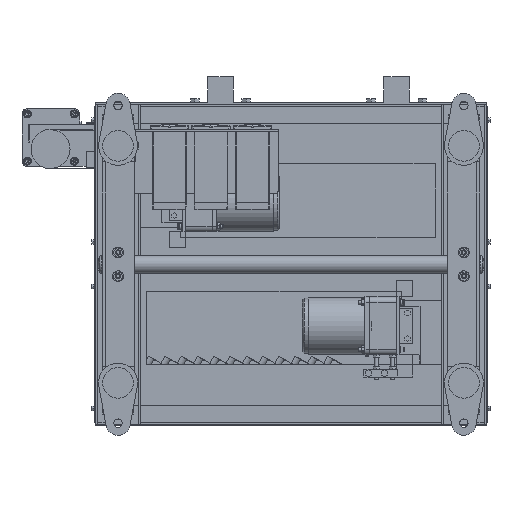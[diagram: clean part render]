
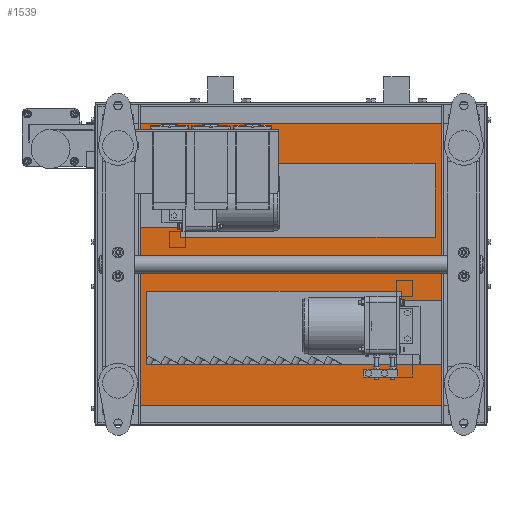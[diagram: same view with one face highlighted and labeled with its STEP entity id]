
A CAD part, front view. The second image highlights one B-rep face of the part: STEP entity #1539.
In plain terms, the highlighted planar face has unit normal (0, -1, 0).
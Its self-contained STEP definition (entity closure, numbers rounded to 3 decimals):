
#333 = DIRECTION ( 'NONE',  ( 0., 0., 1. ) ) ;
#409 = EDGE_CURVE ( 'NONE', #24663, #5506, #5719, .T. ) ;
#862 = VERTEX_POINT ( 'NONE', #15058 ) ;
#1539 = ADVANCED_FACE ( 'NONE', ( #55067, #7291, #58676 ), #43519, .F. ) ;
#1669 = VERTEX_POINT ( 'NONE', #30481 ) ;
#2827 = DIRECTION ( 'NONE',  ( 1., 0., 0. ) ) ;
#2902 = DIRECTION ( 'NONE',  ( 0., 0., -1. ) ) ;
#3727 = VECTOR ( 'NONE', #2827, 1000. ) ;
#5329 = EDGE_CURVE ( 'NONE', #18940, #28668, #26488, .T. ) ;
#5506 = VERTEX_POINT ( 'NONE', #54766 ) ;
#5719 = LINE ( 'NONE', #39929, #35700 ) ;
#6553 = ORIENTED_EDGE ( 'NONE', *, *, #5329, .T. ) ;
#6984 = ORIENTED_EDGE ( 'NONE', *, *, #39293, .T. ) ;
#7291 = FACE_BOUND ( 'NONE', #43479, .T. ) ;
#8555 = DIRECTION ( 'NONE',  ( 0., 0., 1. ) ) ;
#9012 = CARTESIAN_POINT ( 'NONE',  ( 80., -93., -42. ) ) ;
#9080 = DIRECTION ( 'NONE',  ( -1., 0., 0. ) ) ;
#9198 = VECTOR ( 'NONE', #55566, 1000. ) ;
#9714 = VECTOR ( 'NONE', #52799, 1000. ) ;
#10377 = VECTOR ( 'NONE', #2902, 1000. ) ;
#11450 = VECTOR ( 'NONE', #34855, 1000. ) ;
#11850 = CARTESIAN_POINT ( 'NONE',  ( 40., -93., 57. ) ) ;
#11932 = ORIENTED_EDGE ( 'NONE', *, *, #47320, .F. ) ;
#13016 = LINE ( 'NONE', #39189, #3727 ) ;
#13126 = LINE ( 'NONE', #28210, #15297 ) ;
#13700 = EDGE_CURVE ( 'NONE', #862, #35209, #33691, .T. ) ;
#13990 = VERTEX_POINT ( 'NONE', #9012 ) ;
#14235 = CARTESIAN_POINT ( 'NONE',  ( 3., -93., -500000. ) ) ;
#14282 = LINE ( 'NONE', #54000, #11450 ) ;
#14637 = DIRECTION ( 'NONE',  ( 0., 0., 1. ) ) ;
#15058 = CARTESIAN_POINT ( 'NONE',  ( 570., -93., -157. ) ) ;
#15215 = VERTEX_POINT ( 'NONE', #17288 ) ;
#15297 = VECTOR ( 'NONE', #14637, 1000. ) ;
#15873 = LINE ( 'NONE', #29947, #50864 ) ;
#15906 = VECTOR ( 'NONE', #51028, 1000. ) ;
#16310 = ORIENTED_EDGE ( 'NONE', *, *, #20231, .T. ) ;
#16482 = CARTESIAN_POINT ( 'NONE',  ( 610., -93., 247. ) ) ;
#17288 = CARTESIAN_POINT ( 'NONE',  ( 133., -93., 57. ) ) ;
#18940 = VERTEX_POINT ( 'NONE', #31477 ) ;
#19048 = CARTESIAN_POINT ( 'NONE',  ( 80., -93., -42. ) ) ;
#20019 = VECTOR ( 'NONE', #333, 1000. ) ;
#20108 = VECTOR ( 'NONE', #45536, 1000. ) ;
#20220 = CARTESIAN_POINT ( 'NONE',  ( 610., -93., -247. ) ) ;
#20231 = EDGE_CURVE ( 'NONE', #15215, #46732, #59012, .T. ) ;
#20701 = LINE ( 'NONE', #16482, #56348 ) ;
#20754 = CARTESIAN_POINT ( 'NONE',  ( 530., -93., 157. ) ) ;
#20955 = LINE ( 'NONE', #54201, #41658 ) ;
#21375 = LINE ( 'NONE', #51224, #9198 ) ;
#21735 = CARTESIAN_POINT ( 'NONE',  ( 80., -93., -157. ) ) ;
#22088 = DIRECTION ( 'NONE',  ( 0., 0., -1. ) ) ;
#23114 = EDGE_CURVE ( 'NONE', #38054, #24663, #27485, .T. ) ;
#24663 = VERTEX_POINT ( 'NONE', #57180 ) ;
#25302 = CARTESIAN_POINT ( 'NONE',  ( 530., -93., 42. ) ) ;
#25720 = LINE ( 'NONE', #14235, #20019 ) ;
#26488 = LINE ( 'NONE', #27104, #20108 ) ;
#26755 = EDGE_CURVE ( 'NONE', #1669, #28668, #20701, .T. ) ;
#27104 = CARTESIAN_POINT ( 'NONE',  ( 607., -93., -500000. ) ) ;
#27211 = VECTOR ( 'NONE', #9080, 1000. ) ;
#27485 = LINE ( 'NONE', #52432, #10377 ) ;
#27536 = ORIENTED_EDGE ( 'NONE', *, *, #409, .T. ) ;
#28210 = CARTESIAN_POINT ( 'NONE',  ( 133., -93., 57. ) ) ;
#28668 = VERTEX_POINT ( 'NONE', #57760 ) ;
#28786 = EDGE_LOOP ( 'NONE', ( #33410, #27536, #46592, #36191, #47080, #6984 ) ) ;
#28929 = LINE ( 'NONE', #20220, #58916 ) ;
#29724 = DIRECTION ( 'NONE',  ( -1., 0., 0. ) ) ;
#29740 = ORIENTED_EDGE ( 'NONE', *, *, #26755, .F. ) ;
#29947 = CARTESIAN_POINT ( 'NONE',  ( 40., -93., 157. ) ) ;
#30481 = CARTESIAN_POINT ( 'NONE',  ( 3., -93., 247. ) ) ;
#31477 = CARTESIAN_POINT ( 'NONE',  ( 607., -93., -247. ) ) ;
#31605 = AXIS2_PLACEMENT_3D ( 'NONE', #38940, #52111, #29724 ) ;
#32165 = ORIENTED_EDGE ( 'NONE', *, *, #38566, .T. ) ;
#32277 = LINE ( 'NONE', #19048, #15906 ) ;
#32431 = VERTEX_POINT ( 'NONE', #34516 ) ;
#32484 = EDGE_CURVE ( 'NONE', #46732, #34761, #15873, .T. ) ;
#32703 = CARTESIAN_POINT ( 'NONE',  ( 40., -93., 157. ) ) ;
#33410 = ORIENTED_EDGE ( 'NONE', *, *, #23114, .T. ) ;
#33691 = LINE ( 'NONE', #37460, #54403 ) ;
#34361 = DIRECTION ( 'NONE',  ( -1., 0., 0. ) ) ;
#34413 = EDGE_CURVE ( 'NONE', #18940, #53296, #28929, .T. ) ;
#34516 = CARTESIAN_POINT ( 'NONE',  ( 133., -93., 42. ) ) ;
#34761 = VERTEX_POINT ( 'NONE', #32703 ) ;
#34855 = DIRECTION ( 'NONE',  ( 0., 0., -1. ) ) ;
#35075 = VERTEX_POINT ( 'NONE', #20754 ) ;
#35094 = VERTEX_POINT ( 'NONE', #25302 ) ;
#35209 = VERTEX_POINT ( 'NONE', #21735 ) ;
#35700 = VECTOR ( 'NONE', #53465, 1000. ) ;
#35754 = CARTESIAN_POINT ( 'NONE',  ( 3., -93., -247. ) ) ;
#35790 = LINE ( 'NONE', #50014, #27211 ) ;
#36191 = ORIENTED_EDGE ( 'NONE', *, *, #13700, .T. ) ;
#37460 = CARTESIAN_POINT ( 'NONE',  ( 80., -93., -157. ) ) ;
#37656 = DIRECTION ( 'NONE',  ( -1., 0., 0. ) ) ;
#38054 = VERTEX_POINT ( 'NONE', #54295 ) ;
#38566 = EDGE_CURVE ( 'NONE', #34761, #35075, #13016, .T. ) ;
#38940 = CARTESIAN_POINT ( 'NONE',  ( 610., -93., -500000. ) ) ;
#39031 = EDGE_CURVE ( 'NONE', #5506, #862, #14282, .T. ) ;
#39189 = CARTESIAN_POINT ( 'NONE',  ( 530., -93., 157. ) ) ;
#39293 = EDGE_CURVE ( 'NONE', #13990, #38054, #21375, .T. ) ;
#39929 = CARTESIAN_POINT ( 'NONE',  ( 570., -93., -57. ) ) ;
#41606 = CARTESIAN_POINT ( 'NONE',  ( 40., -93., 57. ) ) ;
#41658 = VECTOR ( 'NONE', #22088, 1000. ) ;
#43249 = DIRECTION ( 'NONE',  ( 1., 0., 0. ) ) ;
#43372 = ORIENTED_EDGE ( 'NONE', *, *, #44859, .T. ) ;
#43479 = EDGE_LOOP ( 'NONE', ( #55653, #16310, #52291, #32165, #54028, #43372 ) ) ;
#43519 = PLANE ( 'NONE',  #31605 ) ;
#44859 = EDGE_CURVE ( 'NONE', #35094, #32431, #35790, .T. ) ;
#45536 = DIRECTION ( 'NONE',  ( 0., 0., 1. ) ) ;
#46462 = EDGE_CURVE ( 'NONE', #32431, #15215, #13126, .T. ) ;
#46592 = ORIENTED_EDGE ( 'NONE', *, *, #39031, .T. ) ;
#46732 = VERTEX_POINT ( 'NONE', #11850 ) ;
#47080 = ORIENTED_EDGE ( 'NONE', *, *, #53018, .T. ) ;
#47320 = EDGE_CURVE ( 'NONE', #53296, #1669, #25720, .T. ) ;
#50014 = CARTESIAN_POINT ( 'NONE',  ( 530., -93., 42. ) ) ;
#50864 = VECTOR ( 'NONE', #8555, 1000. ) ;
#51028 = DIRECTION ( 'NONE',  ( 0., 0., 1. ) ) ;
#51224 = CARTESIAN_POINT ( 'NONE',  ( 80., -93., -42. ) ) ;
#52111 = DIRECTION ( 'NONE',  ( 0., 1., 0. ) ) ;
#52291 = ORIENTED_EDGE ( 'NONE', *, *, #32484, .T. ) ;
#52432 = CARTESIAN_POINT ( 'NONE',  ( 477., -93., -57. ) ) ;
#52797 = EDGE_CURVE ( 'NONE', #35075, #35094, #20955, .T. ) ;
#52799 = DIRECTION ( 'NONE',  ( -1., 0., 0. ) ) ;
#53018 = EDGE_CURVE ( 'NONE', #35209, #13990, #32277, .T. ) ;
#53296 = VERTEX_POINT ( 'NONE', #35754 ) ;
#53465 = DIRECTION ( 'NONE',  ( 1., 0., 0. ) ) ;
#53811 = ORIENTED_EDGE ( 'NONE', *, *, #34413, .F. ) ;
#54000 = CARTESIAN_POINT ( 'NONE',  ( 570., -93., -57. ) ) ;
#54028 = ORIENTED_EDGE ( 'NONE', *, *, #52797, .T. ) ;
#54201 = CARTESIAN_POINT ( 'NONE',  ( 530., -93., 157. ) ) ;
#54295 = CARTESIAN_POINT ( 'NONE',  ( 477., -93., -42. ) ) ;
#54403 = VECTOR ( 'NONE', #37656, 1000. ) ;
#54766 = CARTESIAN_POINT ( 'NONE',  ( 570., -93., -57. ) ) ;
#55067 = FACE_BOUND ( 'NONE', #28786, .T. ) ;
#55407 = EDGE_LOOP ( 'NONE', ( #6553, #29740, #11932, #53811 ) ) ;
#55566 = DIRECTION ( 'NONE',  ( 1., 0., 0. ) ) ;
#55653 = ORIENTED_EDGE ( 'NONE', *, *, #46462, .T. ) ;
#56348 = VECTOR ( 'NONE', #43249, 1000. ) ;
#57180 = CARTESIAN_POINT ( 'NONE',  ( 477., -93., -57. ) ) ;
#57760 = CARTESIAN_POINT ( 'NONE',  ( 607., -93., 247. ) ) ;
#58676 = FACE_OUTER_BOUND ( 'NONE', #55407, .T. ) ;
#58916 = VECTOR ( 'NONE', #34361, 1000. ) ;
#59012 = LINE ( 'NONE', #41606, #9714 ) ;
